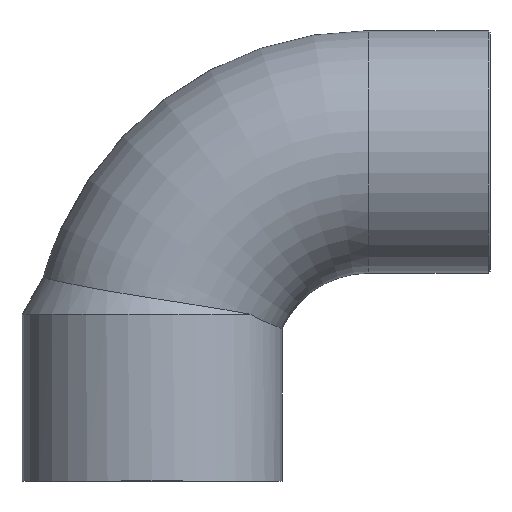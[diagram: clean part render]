
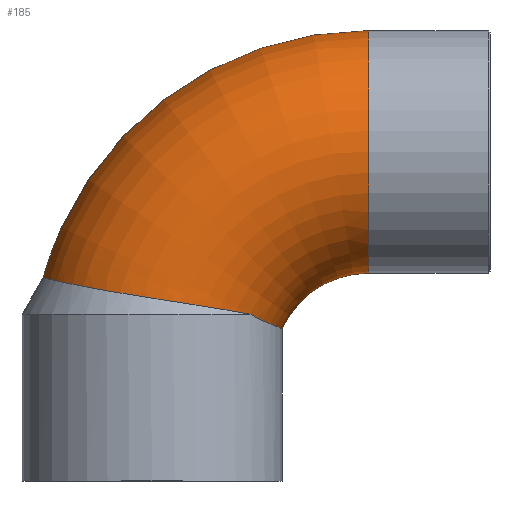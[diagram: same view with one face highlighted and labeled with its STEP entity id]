
A CAD part, top view. The second image highlights one B-rep face of the part: STEP entity #185.
In plain terms, the highlighted toroidal (fillet/blend) face has major radius 25 mm and minor radius 14 mm.
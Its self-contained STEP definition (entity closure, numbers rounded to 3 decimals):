
#16=TOROIDAL_SURFACE('',#231,25.,14.);
#20=B_SPLINE_CURVE_WITH_KNOTS('',3,(#382,#383,#384,#385,#386,#387,#388,
#389,#390,#391,#392,#393,#394,#395,#396,#397,#398,#399,#400,#401,#402,#403,
#404,#405,#406,#407,#408,#409),.UNSPECIFIED.,.F.,.F.,(4,2,2,2,2,2,2,2,2,
2,2,2,2,4),(0.,0.578,1.15,1.714,2.269,
2.818,3.364,3.91,4.454,4.989,
5.517,6.044,6.373,6.681),
 .UNSPECIFIED.);
#21=B_SPLINE_CURVE_WITH_KNOTS('',3,(#411,#412,#413,#414,#415,#416,#417,
#418),.UNSPECIFIED.,.F.,.F.,(4,2,2,4),(1.094,1.622,
2.023,2.189),.UNSPECIFIED.);
#22=B_SPLINE_CURVE_WITH_KNOTS('',3,(#420,#421,#422,#423,#424,#425,#426,
#427,#428,#429),.UNSPECIFIED.,.F.,.F.,(4,2,2,2,4),(0.,0.245,
0.544,1.081,1.094),.UNSPECIFIED.);
#40=FACE_OUTER_BOUND('',#54,.T.);
#54=EDGE_LOOP('',(#158,#159,#160,#161,#162,#163));
#72=CIRCLE('',#216,14.);
#80=CIRCLE('',#232,11.);
#85=VERTEX_POINT('',#304);
#94=VERTEX_POINT('',#380);
#95=VERTEX_POINT('',#381);
#96=VERTEX_POINT('',#410);
#102=EDGE_CURVE('',#85,#85,#72,.T.);
#116=EDGE_CURVE('',#94,#95,#20,.T.);
#117=EDGE_CURVE('',#96,#94,#21,.T.);
#118=EDGE_CURVE('',#96,#85,#80,.T.);
#119=EDGE_CURVE('',#95,#96,#22,.T.);
#158=ORIENTED_EDGE('',*,*,#116,.F.);
#159=ORIENTED_EDGE('',*,*,#117,.F.);
#160=ORIENTED_EDGE('',*,*,#118,.T.);
#161=ORIENTED_EDGE('',*,*,#102,.F.);
#162=ORIENTED_EDGE('',*,*,#118,.F.);
#163=ORIENTED_EDGE('',*,*,#119,.F.);
#185=ADVANCED_FACE('',(#40),#16,.T.);
#216=AXIS2_PLACEMENT_3D('',#306,#250,#251);
#231=AXIS2_PLACEMENT_3D('',#379,#283,#284);
#232=AXIS2_PLACEMENT_3D('',#419,#285,#286);
#250=DIRECTION('center_axis',(1.,0.,0.));
#251=DIRECTION('ref_axis',(0.,1.,0.));
#283=DIRECTION('center_axis',(0.,0.,1.));
#284=DIRECTION('ref_axis',(1.,0.,0.));
#285=DIRECTION('center_axis',(0.,0.,-1.));
#286=DIRECTION('ref_axis',(1.,0.,0.));
#304=CARTESIAN_POINT('',(25.,5.,0.));
#306=CARTESIAN_POINT('Origin',(25.,19.,0.));
#379=CARTESIAN_POINT('Origin',(25.,-6.,0.));
#380=CARTESIAN_POINT('',(11.3,0.268,9.865));
#381=CARTESIAN_POINT('',(11.3,0.268,-9.865));
#382=CARTESIAN_POINT('Ctrl Pts',(11.3,0.268,9.865));
#383=CARTESIAN_POINT('Ctrl Pts',(9.942,0.508,11.209));
#384=CARTESIAN_POINT('Ctrl Pts',(8.329,0.779,12.267));
#385=CARTESIAN_POINT('Ctrl Pts',(4.808,1.345,13.68));
#386=CARTESIAN_POINT('Ctrl Pts',(2.933,1.638,14.03));
#387=CARTESIAN_POINT('Ctrl Pts',(-0.809,2.229,13.967));
#388=CARTESIAN_POINT('Ctrl Pts',(-2.64,2.523,13.568));
#389=CARTESIAN_POINT('Ctrl Pts',(-6.011,3.098,12.076));
#390=CARTESIAN_POINT('Ctrl Pts',(-7.52,3.375,11.009));
#391=CARTESIAN_POINT('Ctrl Pts',(-10.016,3.876,8.354));
#392=CARTESIAN_POINT('Ctrl Pts',(-10.983,4.096,6.8));
#393=CARTESIAN_POINT('Ctrl Pts',(-12.275,4.409,3.405));
#394=CARTESIAN_POINT('Ctrl Pts',(-12.589,4.496,1.597));
#395=CARTESIAN_POINT('Ctrl Pts',(-12.533,4.481,-2.045));
#396=CARTESIAN_POINT('Ctrl Pts',(-12.162,4.38,-3.845));
#397=CARTESIAN_POINT('Ctrl Pts',(-10.768,4.047,-7.183));
#398=CARTESIAN_POINT('Ctrl Pts',(-9.762,3.822,-8.692));
#399=CARTESIAN_POINT('Ctrl Pts',(-7.249,3.324,-11.213));
#400=CARTESIAN_POINT('Ctrl Pts',(-5.776,3.056,-12.207));
#401=CARTESIAN_POINT('Ctrl Pts',(-2.553,2.509,-13.578));
#402=CARTESIAN_POINT('Ctrl Pts',(-0.837,2.233,-13.948));
#403=CARTESIAN_POINT('Ctrl Pts',(2.636,1.684,-14.042));
#404=CARTESIAN_POINT('Ctrl Pts',(4.365,1.415,-13.766));
#405=CARTESIAN_POINT('Ctrl Pts',(7.025,0.989,-12.826));
#406=CARTESIAN_POINT('Ctrl Pts',(8.004,0.83,-12.348));
#407=CARTESIAN_POINT('Ctrl Pts',(9.777,0.533,-11.219));
#408=CARTESIAN_POINT('Ctrl Pts',(10.576,0.396,-10.582));
#409=CARTESIAN_POINT('Ctrl Pts',(11.3,0.268,-9.865));
#410=CARTESIAN_POINT('',(15.,-1.417,0.));
#411=CARTESIAN_POINT('Ctrl Pts',(15.,-1.417,0.));
#412=CARTESIAN_POINT('Ctrl Pts',(15.,-1.417,1.765));
#413=CARTESIAN_POINT('Ctrl Pts',(14.687,-1.299,3.515));
#414=CARTESIAN_POINT('Ctrl Pts',(13.63,-0.861,6.401));
#415=CARTESIAN_POINT('Ctrl Pts',(13.015,-0.599,7.568));
#416=CARTESIAN_POINT('Ctrl Pts',(11.969,-0.087,9.057));
#417=CARTESIAN_POINT('Ctrl Pts',(11.642,0.08,9.472));
#418=CARTESIAN_POINT('Ctrl Pts',(11.3,0.268,9.865));
#419=CARTESIAN_POINT('Origin',(25.,-6.,0.));
#420=CARTESIAN_POINT('Ctrl Pts',(11.3,0.268,-9.865));
#421=CARTESIAN_POINT('Ctrl Pts',(11.805,-0.009,-9.286));
#422=CARTESIAN_POINT('Ctrl Pts',(12.275,-0.241,-8.657));
#423=CARTESIAN_POINT('Ctrl Pts',(13.214,-0.681,-7.164));
#424=CARTESIAN_POINT('Ctrl Pts',(13.656,-0.871,-6.284));
#425=CARTESIAN_POINT('Ctrl Pts',(14.644,-1.283,-3.702));
#426=CARTESIAN_POINT('Ctrl Pts',(14.984,-1.411,-1.928));
#427=CARTESIAN_POINT('Ctrl Pts',(15.,-1.417,-0.088));
#428=CARTESIAN_POINT('Ctrl Pts',(15.,-1.417,-0.044));
#429=CARTESIAN_POINT('Ctrl Pts',(15.,-1.417,0.));
